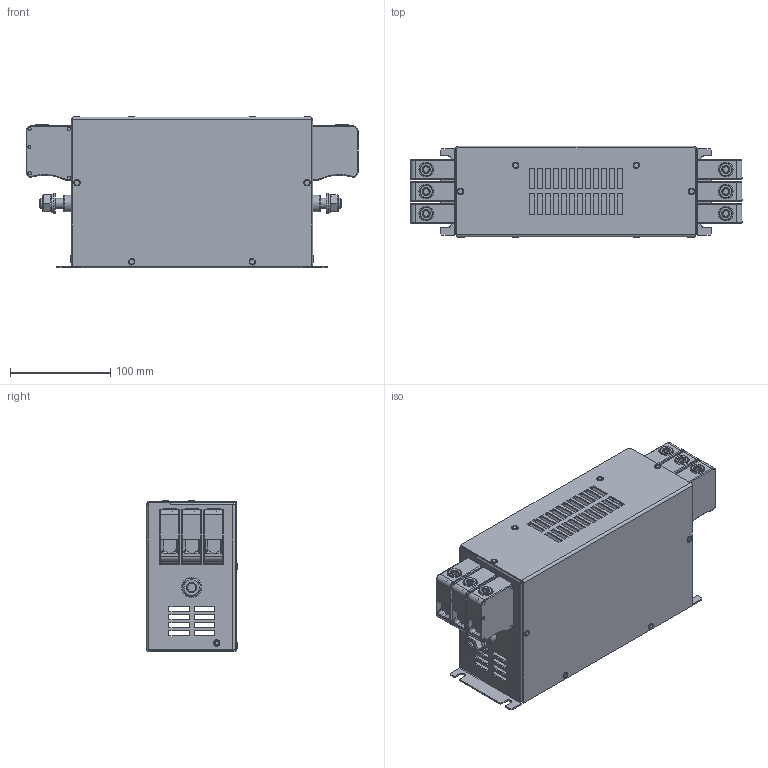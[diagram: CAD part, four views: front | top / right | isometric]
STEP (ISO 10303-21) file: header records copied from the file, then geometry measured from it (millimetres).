
FILE_DESCRIPTION(/* description */ ('raw material description'),/* implementation_level */ '2;1');
FILE_NAME(/* name */ 'P:\Construction\Filter_Marketing\FN\FN3258\FN3258-100-130-35\FN3258(H)-100...135-35.stp',/* time_stamp */ '2017-09-20T12:26:58+02:00',/* author */ ('erika.jenzer'),/* organization */ ('Schaffner EMV AG'),/* preprocessor_version */ 'ST-DEVELOPER v16.5',/* originating_system */ 'Autodesk Inventor 2017',/* authorisation */ '');
FILE_SCHEMA (('AUTOMOTIVE_DESIGN { 1 0 10303 214 3 1 1 }'));
Length unit declared in the file: millimetre
Products named in the file (1): FN3258(H)-100...135-35
Bounding box: 330.4 x 90.8 x 150.8 mm (x, y, z)
Volume: 568193.8 mm3; surface area: 344068.7 mm2
Topology: 1 solids, 11 shells, 1653 faces, 4018 edges, 2485 vertices
Faces by surface type: plane 934, cylinder 481, bspline 80, torus 76, sphere 60, cone 22
Full cylindrical faces by diameter (mm): 3.2 x10, 3.3 x34, 3.5 x10, 6.5 x10, 6.8 x6, 10 x6, 10.5 x4, 12.7 x2, 14.63 x1, 16.5 x2, 20 x2
Entity records: 50059 total; most frequent: CARTESIAN_POINT 9778, DIRECTION 8064, ORIENTED_EDGE 7706, EDGE_CURVE 3853, AXIS2_PLACEMENT_3D 2763, LINE 2538, VECTOR 2538, VERTEX_POINT 2469
